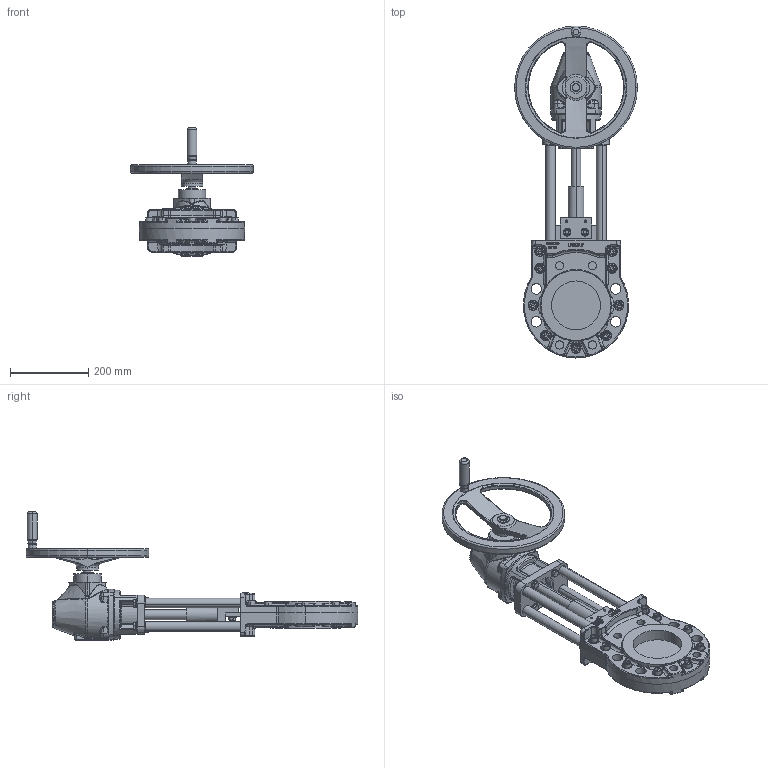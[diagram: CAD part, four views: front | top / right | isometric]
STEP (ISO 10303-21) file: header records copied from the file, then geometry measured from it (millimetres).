
FILE_DESCRIPTION (( 'STEP AP214' ), '1' );
FILE_NAME ('MHA DN 125 GK10.2.STEP', '2015-04-28T09:44:10', ( 'admin' ), ( 'Hewlett-Packard Company' ), 'SwSTEP 2.0', 'SolidWorks 2013', '' );
FILE_SCHEMA (( 'AUTOMOTIVE_DESIGN' ));
Length unit declared in the file: millimetre
Products named in the file (1): MHA DN 125 GK10.2
Bounding box: 315 x 851 x 329 mm (x, y, z)
Volume: 7436184.7 mm3; surface area: 833893.5 mm2
Topology: 43 solids, 55 shells, 2452 faces, 5845 edges, 3463 vertices
Faces by surface type: plane 819, cylinder 611, bspline 422, cone 344, torus 238, sphere 18
Entity records: 116570 total; most frequent: CARTESIAN_POINT 35227, ORIENTED_EDGE 11346, DIRECTION 11083, EDGE_CURVE 5673, AXIS2_PLACEMENT_3D 4370, VERTEX_POINT 3463, EDGE_LOOP 2666, UNCERTAINTY_MEASURE_WITH_UNIT 2495
